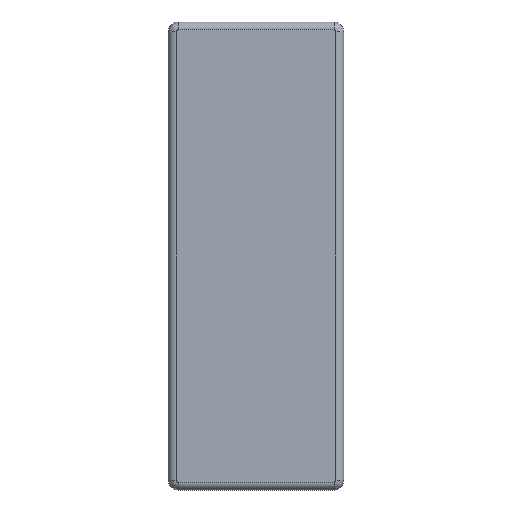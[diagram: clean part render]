
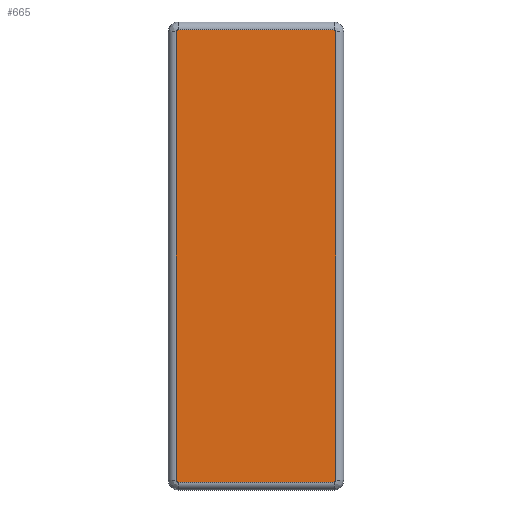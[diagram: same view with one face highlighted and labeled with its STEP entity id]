
A CAD part, front view. The second image highlights one B-rep face of the part: STEP entity #665.
In plain terms, the highlighted planar face has unit normal (0, -1, 0).
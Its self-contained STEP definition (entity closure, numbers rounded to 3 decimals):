
#32=PLANE('',#778);
#65=LINE('',#1192,#97);
#66=LINE('',#1196,#98);
#67=LINE('',#1200,#99);
#68=LINE('',#1203,#100);
#97=VECTOR('',#969,1000.);
#98=VECTOR('',#972,1000.);
#99=VECTOR('',#975,1000.);
#100=VECTOR('',#978,1000.);
#152=FACE_OUTER_BOUND('',#206,.T.);
#206=EDGE_LOOP('',(#550,#551,#552,#553,#554,#555,#556,#557));
#286=CIRCLE('',#779,0.5);
#287=CIRCLE('',#780,0.5);
#288=CIRCLE('',#781,0.5);
#289=CIRCLE('',#782,0.5);
#345=VERTEX_POINT('',#1188);
#346=VERTEX_POINT('',#1189);
#347=VERTEX_POINT('',#1191);
#348=VERTEX_POINT('',#1193);
#349=VERTEX_POINT('',#1195);
#350=VERTEX_POINT('',#1197);
#351=VERTEX_POINT('',#1199);
#352=VERTEX_POINT('',#1201);
#422=EDGE_CURVE('',#345,#346,#286,.T.);
#423=EDGE_CURVE('',#345,#347,#65,.T.);
#424=EDGE_CURVE('',#348,#347,#287,.T.);
#425=EDGE_CURVE('',#348,#349,#66,.T.);
#426=EDGE_CURVE('',#350,#349,#288,.T.);
#427=EDGE_CURVE('',#350,#351,#67,.T.);
#428=EDGE_CURVE('',#352,#351,#289,.T.);
#429=EDGE_CURVE('',#352,#346,#68,.T.);
#550=ORIENTED_EDGE('',*,*,#422,.F.);
#551=ORIENTED_EDGE('',*,*,#423,.T.);
#552=ORIENTED_EDGE('',*,*,#424,.F.);
#553=ORIENTED_EDGE('',*,*,#425,.T.);
#554=ORIENTED_EDGE('',*,*,#426,.F.);
#555=ORIENTED_EDGE('',*,*,#427,.T.);
#556=ORIENTED_EDGE('',*,*,#428,.F.);
#557=ORIENTED_EDGE('',*,*,#429,.T.);
#665=ADVANCED_FACE('',(#152),#32,.T.);
#778=AXIS2_PLACEMENT_3D('',#1187,#965,#966);
#779=AXIS2_PLACEMENT_3D('',#1190,#967,#968);
#780=AXIS2_PLACEMENT_3D('',#1194,#970,#971);
#781=AXIS2_PLACEMENT_3D('',#1198,#973,#974);
#782=AXIS2_PLACEMENT_3D('',#1202,#976,#977);
#965=DIRECTION('center_axis',(0.,-1.,0.));
#966=DIRECTION('ref_axis',(0.,0.,-1.));
#967=DIRECTION('center_axis',(0.,1.,0.));
#968=DIRECTION('ref_axis',(0.,0.,-1.));
#969=DIRECTION('',(-1.,0.,0.));
#970=DIRECTION('center_axis',(0.,1.,0.));
#971=DIRECTION('ref_axis',(0.,0.,-1.));
#972=DIRECTION('',(0.,0.,-1.));
#973=DIRECTION('center_axis',(0.,1.,0.));
#974=DIRECTION('ref_axis',(0.,0.,-1.));
#975=DIRECTION('',(1.,0.,0.));
#976=DIRECTION('center_axis',(0.,1.,0.));
#977=DIRECTION('ref_axis',(0.,0.,-1.));
#978=DIRECTION('',(0.,0.,1.));
#1187=CARTESIAN_POINT('Origin',(-22.5,0.,-60.));
#1188=CARTESIAN_POINT('',(20.,0.,58.));
#1189=CARTESIAN_POINT('',(20.5,0.,57.5));
#1190=CARTESIAN_POINT('Origin',(20.,0.,57.5));
#1191=CARTESIAN_POINT('',(-20.,0.,58.));
#1192=CARTESIAN_POINT('',(-22.5,0.,58.));
#1193=CARTESIAN_POINT('',(-20.5,0.,57.5));
#1194=CARTESIAN_POINT('Origin',(-20.,0.,57.5));
#1195=CARTESIAN_POINT('',(-20.5,0.,-57.5));
#1196=CARTESIAN_POINT('',(-20.5,0.,-60.));
#1197=CARTESIAN_POINT('',(-20.,0.,-58.));
#1198=CARTESIAN_POINT('Origin',(-20.,0.,-57.5));
#1199=CARTESIAN_POINT('',(20.,0.,-58.));
#1200=CARTESIAN_POINT('',(22.5,0.,-58.));
#1201=CARTESIAN_POINT('',(20.5,0.,-57.5));
#1202=CARTESIAN_POINT('Origin',(20.,0.,-57.5));
#1203=CARTESIAN_POINT('',(20.5,0.,60.));
